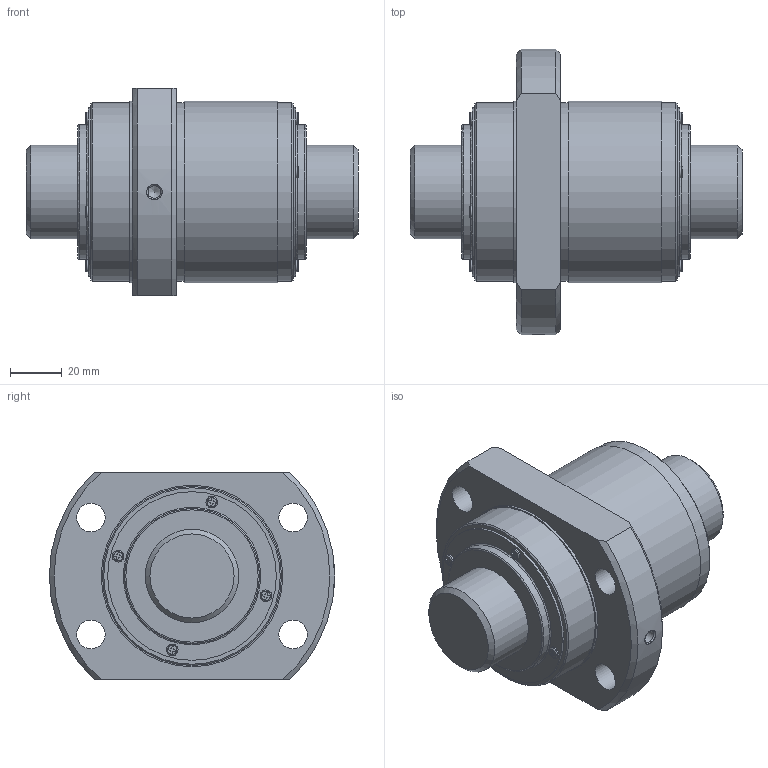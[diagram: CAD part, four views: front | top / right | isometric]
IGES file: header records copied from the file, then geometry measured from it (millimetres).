
Start section: Data from Parasolid IGES Translator 26.0.171, Copyright(c) 2006 Siemens PLM Software. All Rights Reserved.
Global section: file name: BLK3620-5.6ZZ+128LC7T_000.igs; native system: By Siemens PLM Incorporated; preprocessor: XPlus GENERIC/IGES 26.0.171; author: Noname; organization: Noname; date: 20250611.062942; units: millimetre
Bounding box: 128 x 110 x 80 mm (x, y, z)
Surface area: 62167.9 mm2 (no closed solid volume)
Topology: 0 solids, 0 shells, 215 faces, 1089 edges, 1017 vertices
Faces by surface type: extrusion 127, revolution 88
